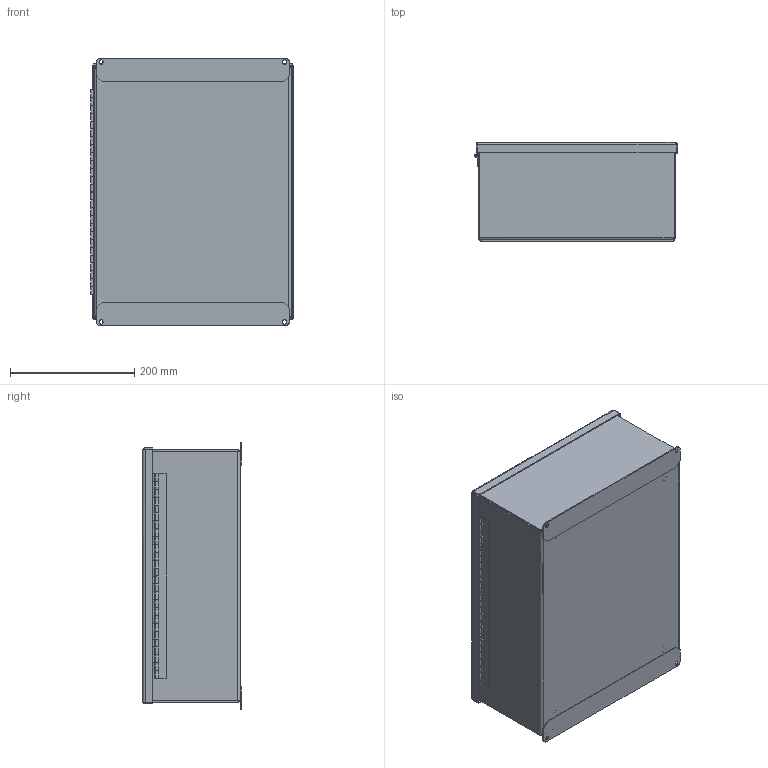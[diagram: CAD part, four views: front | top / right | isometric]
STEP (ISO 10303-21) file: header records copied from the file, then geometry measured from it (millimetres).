
FILE_DESCRIPTION (( 'STEP AP203' ), '1' );
FILE_NAME ('e20pby25.STEP', '2010-08-30T15:01:29', ( 'Hoffman User' ), ( 'Hoffman Enclosures' ), 'SwSTEP 2.0', 'SolidWorks 2009', '' );
FILE_SCHEMA (( 'CONFIG_CONTROL_DESIGN' ));
Length unit declared in the file: inch
Products named in the file (11): Body_XtraLargePB_E20PBY25; Panel_XtraLargePB_14.00x10.50; Wmt_Cvr_XtraLargePB_E20PBY25; e20pby25; Wmt_Body_XtraLargePB_E20PBY25; 54106001_Weldnut_1032x716; Mounting_Foot_11258795; hinge_assy_54A08_54108006_13in; Hinge_2_54A08_54108006_13in; Cover_XtraLargePB_E20PBY25; stud_gnd_10-32x500
Assembly tree (15 placements, depth 4):
  e20pby25
    Wmt_Body_XtraLargePB_E20PBY25
      54106001_Weldnut_1032x716  x4
      Mounting_Foot_11258795  x2
      Body_XtraLargePB_E20PBY25
      hinge_assy_54A08_54108006_13in
        Hinge_2_54A08_54108006_13in  x2
    Wmt_Cvr_XtraLargePB_E20PBY25
      stud_gnd_10-32x500
      Cover_XtraLargePB_E20PBY25
    Panel_XtraLargePB_14.00x10.50
Bounding box: 326.99 x 159.11 x 431.8 mm (x, y, z)
Volume: 1132502.9 mm3; surface area: 1268840.8 mm2
Topology: 12 solids, 12 shells, 841 faces, 2310 edges, 1502 vertices
Faces by surface type: plane 531, cylinder 276, bspline 16, cone 10, torus 8
Entity records: 24088 total; most frequent: CARTESIAN_POINT 5656, ORIENTED_EDGE 3618, DIRECTION 3459, EDGE_CURVE 1809, VECTOR 1413, LINE 1413, VERTEX_POINT 1172, AXIS2_PLACEMENT_3D 1023
